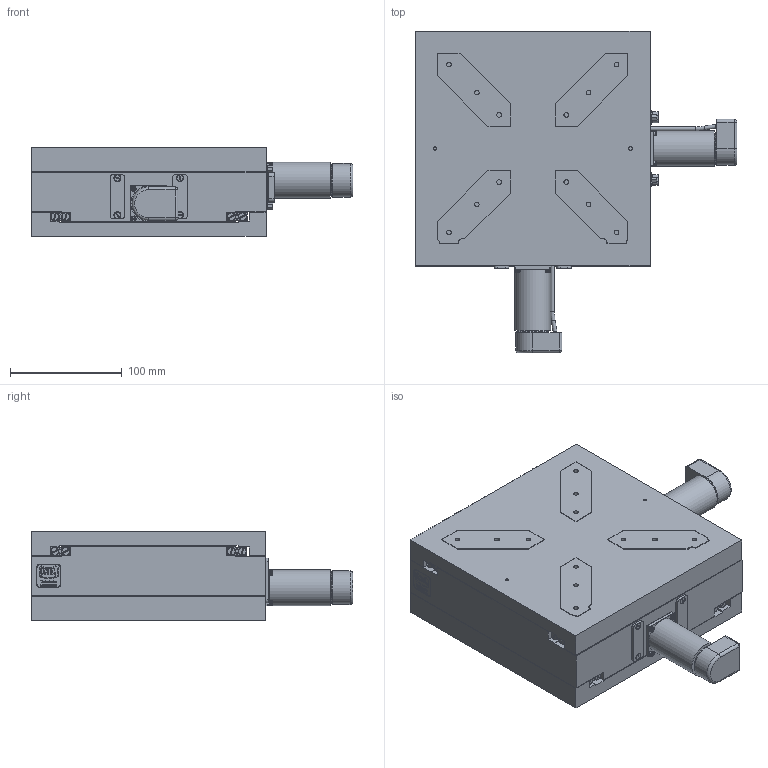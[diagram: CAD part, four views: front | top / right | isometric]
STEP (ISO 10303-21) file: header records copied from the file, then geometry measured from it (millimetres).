
FILE_DESCRIPTION(/* description */ (''),/* implementation_level */ '2;1');
FILE_NAME(/* name */ 'H:\Inventor\Katalog\3D-CAD-Modelle\STP neu\GT6-Nxxx-CAD.stp',/* time_stamp */ '2024-01-16T11:28:47+01:00',/* author */ ('KON3'),/* organization */ (''),/* preprocessor_version */ 'ST-DEVELOPER v18',/* originating_system */ 'Autodesk Inventor 2020',/* authorisation */ '');
FILE_SCHEMA (('AUTOMOTIVE_DESIGN { 1 0 10303 214 3 1 1 }'));
Products named in the file (6): GT6-Nxxx-CAD; GT6-Nxxx_mitte; GT6-Nxxx_unten_oben; M25-MAX20-D-Zubehoer_Shrinkwrap_1; M25-MAX20-Zubehoer_Shrinkwrap_1; ZSS33-MOK_25_Shrinkwrap_1
Assembly tree (9 placements, depth 2):
  GT6-Nxxx-CAD
    GT6-Nxxx_unten_oben  x2
    GT6-Nxxx_mitte
    M25-MAX20-D-Zubehoer_Shrinkwrap_1  x2
    M25-MAX20-Zubehoer_Shrinkwrap_1  x2
    ZSS33-MOK_25_Shrinkwrap_1  x2
Bounding box: 287.91 x 287.7 x 80 mm (x, y, z)
Volume: 3682689.5 mm3; surface area: 490848.8 mm2
Topology: 85 solids, 85 shells, 3134 faces, 8049 edges, 5411 vertices
Faces by surface type: plane 1714, cylinder 766, bspline 388, cone 190, torus 70, sphere 6
Full cylindrical faces by diameter (mm): 1 x60, 1.221 x4, 1.567 x16, 1.783 x6, 1.8 x4, 2 x6, 2.013 x8, 2.156 x4, 2.256 x16, 2.4 x8, 2.459 x20, 2.5 x24, 2.8 x24, 3 x22, 3.2 x8, 3.242 x64, 3.4 x8, 3.5 x8, 4 x6, 4.134 x24, 4.5 x8, 5 x2, 6 x68, 7.5 x16, 8 x12, 10 x8, 18 x2, 22 x2, 25 x8, 28.5 x2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
Entity records: 81477 total; most frequent: CARTESIAN_POINT 20286, ORIENTED_EDGE 12422, DIRECTION 11374, EDGE_CURVE 6211, VERTEX_POINT 4192, AXIS2_PLACEMENT_3D 3986, LINE 3402, VECTOR 3402
